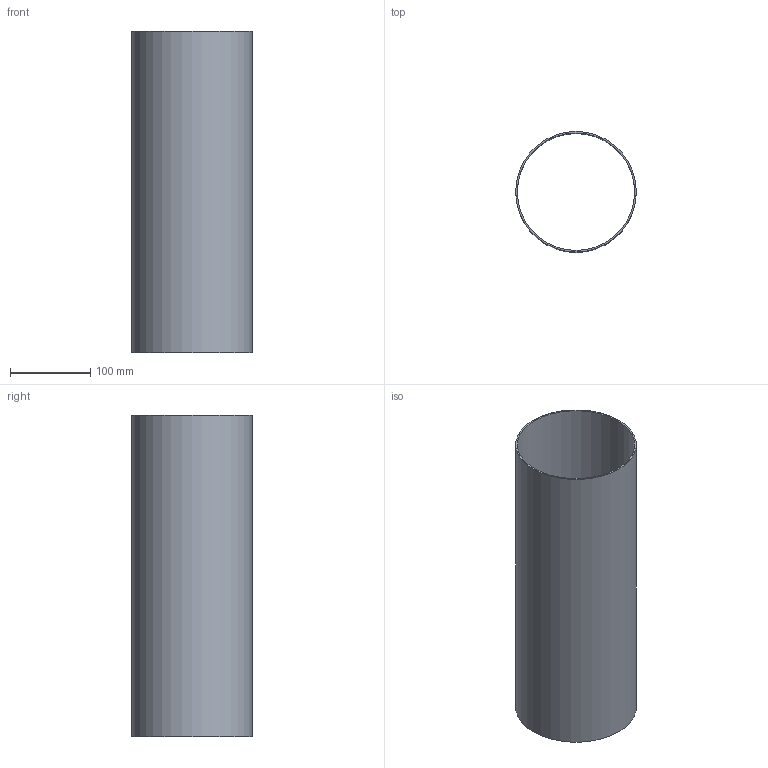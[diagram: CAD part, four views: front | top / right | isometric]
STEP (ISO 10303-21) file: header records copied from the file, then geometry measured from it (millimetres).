
FILE_DESCRIPTION(('Open CASCADE Model'),'2;1');
FILE_NAME('Open CASCADE Shape Model','2026-10-15T15:10:05',('Author'),( 'Open CASCADE'),'Open CASCADE STEP processor 8.0','Open CASCADE 8.0' ,'Unknown');
FILE_SCHEMA(('AUTOMOTIVE_DESIGN { 1 0 10303 214 1 1 1 1 }'));
Length unit declared in the file: millimetre
Products named in the file (1): CAPTACION_POLVO_DN150_REF 124
Bounding box: 150 x 150 x 400 mm (x, y, z)
Volume: 371964.6 mm3; surface area: 373824.4 mm2
Topology: 1 solids, 1 shells, 4 faces, 6 edges, 4 vertices
Faces by surface type: cylinder 2, plane 2
Full cylindrical faces by diameter (mm): 146 x1, 150 x1
Entity records: 186 total; most frequent: DIRECTION 32, CARTESIAN_POINT 27, ORIENTED_EDGE 12, PCURVE 12, DEFINITIONAL_REPRESENTATION 12, LINE 10, VECTOR 10, AXIS2_PLACEMENT_3D 9
